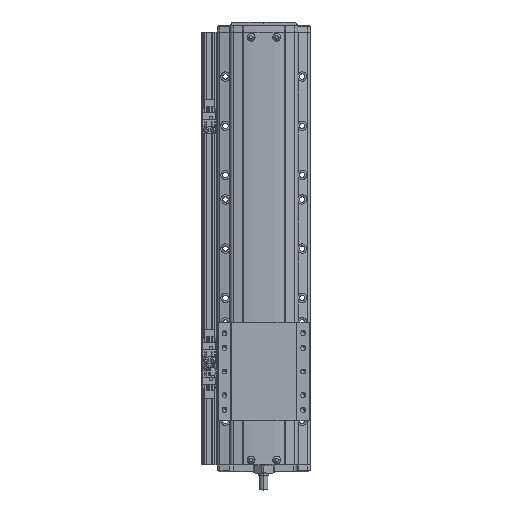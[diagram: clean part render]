
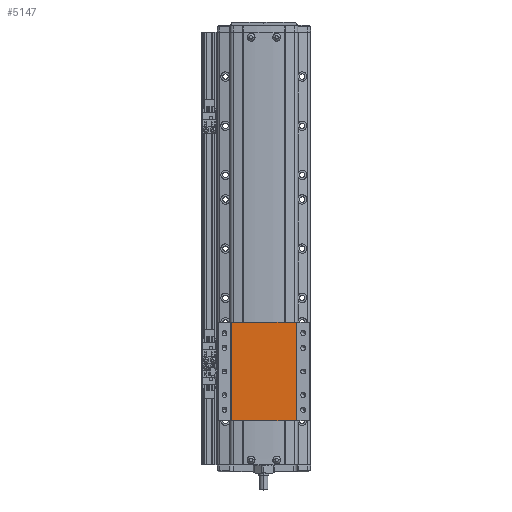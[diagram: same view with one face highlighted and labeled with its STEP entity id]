
A CAD part, top view. The second image highlights one B-rep face of the part: STEP entity #5147.
In plain terms, the highlighted planar face has unit normal (0, 0, 1).
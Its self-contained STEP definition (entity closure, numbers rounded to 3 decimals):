
#5147=ADVANCED_FACE('',(#11282),#11283,.F.);
#11282=FACE_OUTER_BOUND('',#19279,.T.);
#11283=PLANE('',#19280);
#19279=EDGE_LOOP('',(#35245,#35246,#35247,#35248));
#19280=AXIS2_PLACEMENT_3D('',#35249,#35250,#35251);
#35245=ORIENTED_EDGE('',*,*,#50525,.F.);
#35246=ORIENTED_EDGE('',*,*,#50123,.F.);
#35247=ORIENTED_EDGE('',*,*,#45481,.F.);
#35248=ORIENTED_EDGE('',*,*,#44491,.T.);
#35249=CARTESIAN_POINT('',(0.,67.222,30.5));
#35250=DIRECTION('',(0.,0.,-1.0));
#35251=DIRECTION('',(-1.0,0.,0.));
#44491=EDGE_CURVE('',#52880,#52878,#52881,.T.);
#45481=EDGE_CURVE('',#52880,#54640,#54641,.T.);
#50123=EDGE_CURVE('',#54640,#61915,#61918,.T.);
#50525=EDGE_CURVE('',#61915,#52878,#62456,.T.);
#52878=VERTEX_POINT('',#65212);
#52880=VERTEX_POINT('',#65214);
#52881=LINE('',#65215,#65216);
#54640=VERTEX_POINT('',#67771);
#54641=LINE('',#67772,#67773);
#61915=VERTEX_POINT('',#78463);
#61918=LINE('',#78467,#78468);
#62456=LINE('',#79257,#79258);
#65212=CARTESIAN_POINT('',(32.876,167.222,30.5));
#65214=CARTESIAN_POINT('',(32.876,67.222,30.5));
#65215=CARTESIAN_POINT('',(32.876,67.222,30.5));
#65216=VECTOR('',#83154,10.0);
#67771=CARTESIAN_POINT('',(-32.876,67.222,30.5));
#67772=CARTESIAN_POINT('',(32.876,67.222,30.5));
#67773=VECTOR('',#84367,10.0);
#78463=CARTESIAN_POINT('',(-32.876,167.222,30.5));
#78467=CARTESIAN_POINT('',(-32.876,67.222,30.5));
#78468=VECTOR('',#90043,10.0);
#79257=CARTESIAN_POINT('',(32.876,167.222,30.5));
#79258=VECTOR('',#90496,10.0);
#83154=DIRECTION('',(0.,1.0,0.));
#84367=DIRECTION('',(-1.0,0.,0.));
#90043=DIRECTION('',(0.,1.0,0.));
#90496=DIRECTION('',(1.0,0.,0.));
